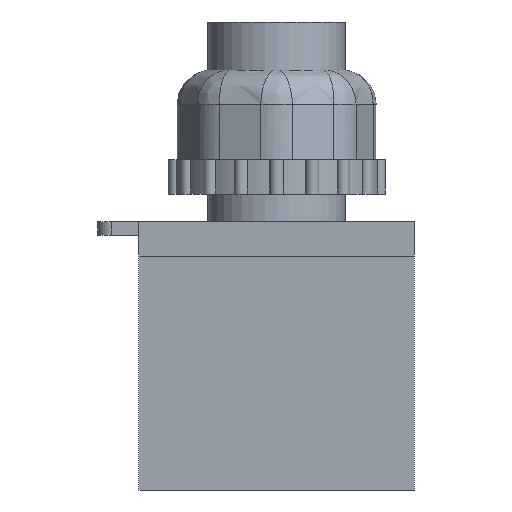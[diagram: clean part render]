
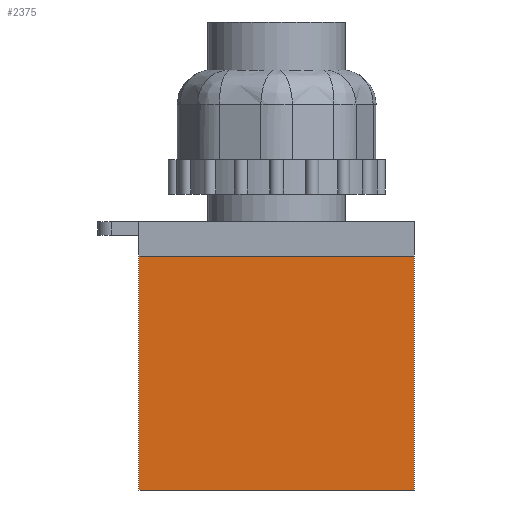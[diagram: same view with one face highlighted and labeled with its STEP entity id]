
A CAD part, front view. The second image highlights one B-rep face of the part: STEP entity #2375.
In plain terms, the highlighted planar face has unit normal (0, -1, 0).
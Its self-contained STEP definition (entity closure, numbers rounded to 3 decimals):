
#237=FACE_OUTER_BOUND('',#379,.T.);
#379=EDGE_LOOP('',(#1590,#1591,#1592,#1593));
#525=LINE('',#3498,#751);
#527=LINE('',#3502,#753);
#530=LINE('',#3507,#756);
#531=LINE('',#3509,#757);
#751=VECTOR('',#2777,10.);
#753=VECTOR('',#2781,10.);
#756=VECTOR('',#2786,10.);
#757=VECTOR('',#2789,10.);
#976=VERTEX_POINT('',#3495);
#977=VERTEX_POINT('',#3497);
#978=VERTEX_POINT('',#3501);
#979=VERTEX_POINT('',#3505);
#1214=EDGE_CURVE('',#977,#976,#525,.T.);
#1216=EDGE_CURVE('',#978,#977,#527,.T.);
#1219=EDGE_CURVE('',#979,#976,#530,.T.);
#1220=EDGE_CURVE('',#978,#979,#531,.T.);
#1590=ORIENTED_EDGE('',*,*,#1216,.T.);
#1591=ORIENTED_EDGE('',*,*,#1214,.T.);
#1592=ORIENTED_EDGE('',*,*,#1219,.F.);
#1593=ORIENTED_EDGE('',*,*,#1220,.F.);
#2297=PLANE('',#2526);
#2375=ADVANCED_FACE('',(#237),#2297,.T.);
#2526=AXIS2_PLACEMENT_3D('',#3510,#2790,#2791);
#2777=DIRECTION('',(0.,0.,1.));
#2781=DIRECTION('',(1.,0.,0.));
#2786=DIRECTION('',(1.,0.,0.));
#2789=DIRECTION('',(0.,0.,1.));
#2790=DIRECTION('center_axis',(0.,-1.,0.));
#2791=DIRECTION('ref_axis',(1.,0.,0.));
#3495=CARTESIAN_POINT('',(20.,-15.5,34.));
#3497=CARTESIAN_POINT('',(20.,-15.5,0.));
#3498=CARTESIAN_POINT('',(20.,-15.5,0.));
#3501=CARTESIAN_POINT('',(-20.,-15.5,0.));
#3502=CARTESIAN_POINT('',(-20.,-15.5,0.));
#3505=CARTESIAN_POINT('',(-20.,-15.5,34.));
#3507=CARTESIAN_POINT('',(-20.,-15.5,34.));
#3509=CARTESIAN_POINT('',(-20.,-15.5,0.));
#3510=CARTESIAN_POINT('Origin',(-20.,-15.5,0.));
